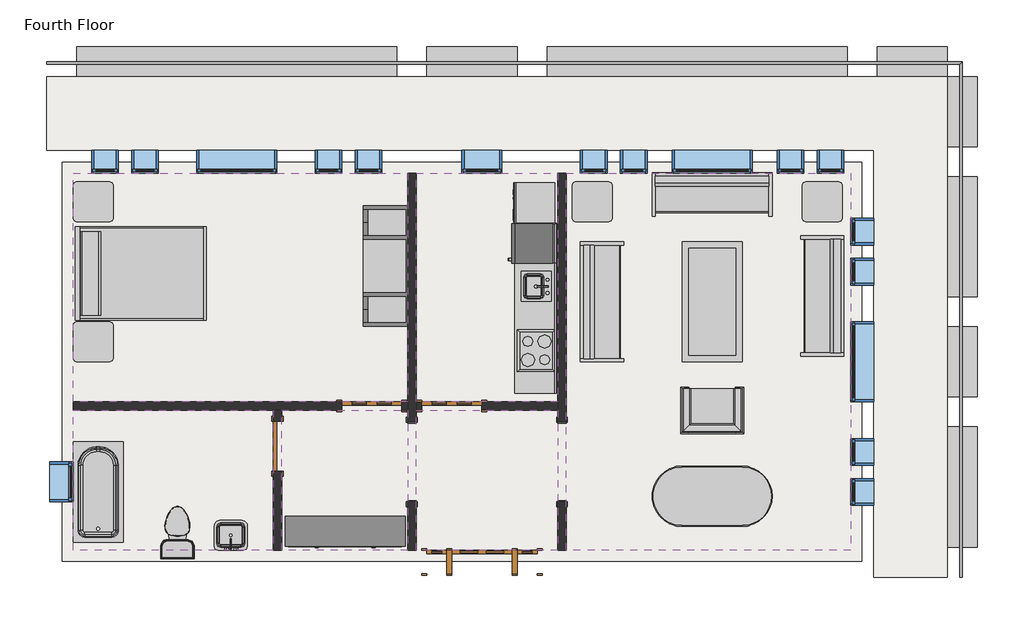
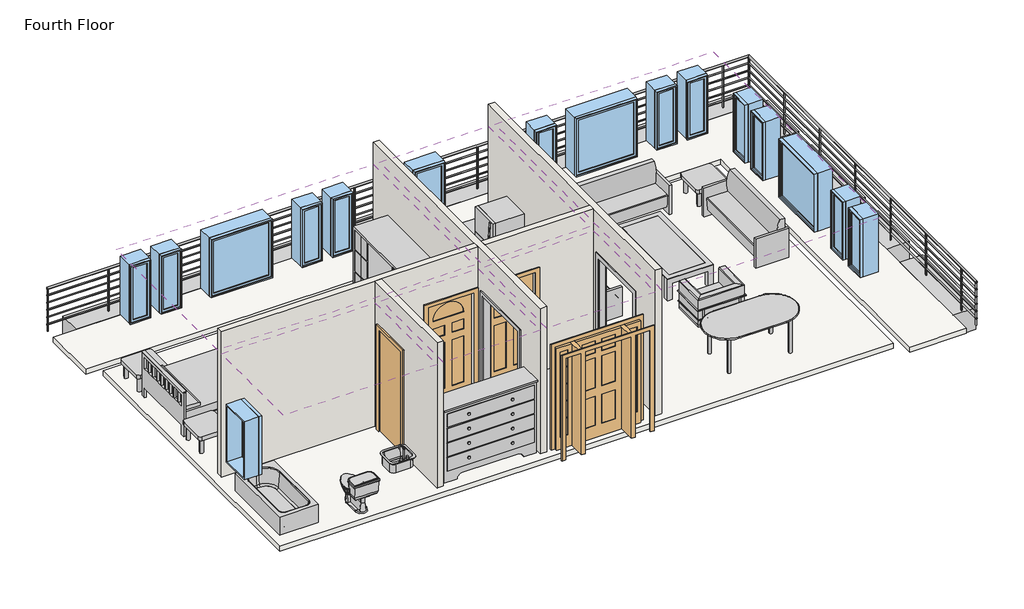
# One storey: 17 windows, 14 furniture elements, 6 coverings, 6 proxies, 5 walls, 4 doors, 4 flow terminals, 2 beams, 3 other elements.
"""IFC4 building model written with IfcOpenShell, lengths in millimetres."""

from ifc_helpers import new_model, si_unit, frame, origin, place, context, project, spatial, polyline, outline, extrude, faceted_brep, transform, mapped, element, save
from components import proxy_dfcd9396, proxy_3c49123c, proxy_7a545507, proxy_f44482cc, proxy_ec3341c2, door_829da954, door_2e3b4da2, door_4d6c7550, door_dba5aa2e, flow_terminal_41332a36, flow_terminal_62a433f7, toilet_domestic_3d_toilet_domestic_3d_f7549cf7, toilet_domestic_3d_toilet_domestic_3d_183bbd19, tub_rectangular_3d_tub_rectangular_3d_15036965, furniture_096e7f55, chair_corbu_chair_corbu_2764bdef, furniture_6db689a5, furniture_7c473f12, furniture_cf0b6580, furniture_a4ffab56, furniture_cd93a443, furniture_2c34a4f9, furniture_3a588284, handrail_pipe_d2b3d8b8, window_da97879f, window_d61ef850, window_60baf983, window_6eb97611

model = new_model("IFC4")

# Units and contexts
model_context = context("Model", 3, world=origin())
ifc_project = project(units=[si_unit("LENGTHUNIT", "METRE", prefix="MILLI")], contexts=[model_context])

# Site, building, storey
site = spatial("IfcSite", under=ifc_project)
building = spatial("IfcBuilding", under=site)
storey = spatial("IfcBuildingStorey", under=building, Name="Fourth Floor", Elevation=9144.0)

# Beams
placement = place(None, origin())
element("IfcBeam", 1, ObjectType="Concrete-Rectangular Beam : 18 x 18", at=placement, inside=storey, context=model_context, shape_type="SweptSolid", body=[
    extrude(outline(polyline([(2093.9410437, 12198.8316867), (2093.9410437, 11741.6316867), (1027.1410437, 11741.6316867), (1027.1410437, 12198.8316867), (2093.9410437, 12198.8316867)])), frame((0.0, 0.0, 8686.8), z_axis=(0.0, 0.0, 1.0), x_axis=(1.0, 0.0, 0.0)), (0.0, 0.0, 1.0), 457.2),
    extrude(outline(polyline([(-11164.8589563, 11741.6316867), (-11164.8589563, 12198.8316867), (-6288.0589563, 12198.8316867), (-6288.0589563, 11741.6316867), (-11164.8589563, 11741.6316867)])), frame((0.0, 0.0, 8686.8), z_axis=(0.0, 0.0, 1.0), x_axis=(1.0, 0.0, 0.0)), (0.0, 0.0, 1.0), 457.2),
    extrude(outline(polyline([(569.9410437, 12198.8316867), (569.9410437, 11741.6316867), (-4002.0589563, 11741.6316867), (-4002.0589563, 12198.8316867), (569.9410437, 12198.8316867)])), frame((0.0, 0.0, 8686.8), z_axis=(0.0, 0.0, 1.0), x_axis=(1.0, 0.0, 0.0)), (0.0, 0.0, 1.0), 457.2),
    extrude(outline(polyline([(-4459.2589563, 12198.8316867), (-4459.2589563, 11741.6316867), (-5830.8589563, 11741.6316867), (-5830.8589563, 12198.8316867), (-4459.2589563, 12198.8316867)])), frame((0.0, 0.0, 8686.8), z_axis=(0.0, 0.0, 1.0), x_axis=(1.0, 0.0, 0.0)), (0.0, 0.0, 1.0), 457.2),
])
element("IfcBeam", 2, ObjectType="Concrete-Rectangular Beam : 18 x 18", at=placement, inside=storey, context=model_context, shape_type="SweptSolid", body=[
    extrude(outline(polyline([(2093.9410437, 11741.6316867), (2551.1410437, 11741.6316867), (2551.1410437, 10674.8316867), (2093.9410437, 10674.8316867), (2093.9410437, 11741.6316867)])), frame((0.0, 0.0, 8686.8), z_axis=(0.0, 0.0, 1.0), x_axis=(1.0, 0.0, 0.0)), (0.0, 0.0, 1.0), 457.2),
    extrude(outline(polyline([(2551.1410437, 4578.8316867), (2093.9410437, 4578.8316867), (2093.9410437, 6407.6316867), (2551.1410437, 6407.6316867), (2551.1410437, 4578.8316867)])), frame((0.0, 0.0, 8686.8), z_axis=(0.0, 0.0, 1.0), x_axis=(1.0, 0.0, 0.0)), (0.0, 0.0, 1.0), 457.2),
    extrude(outline(polyline([(2093.9410437, 10217.6316867), (2551.1410437, 10217.6316867), (2551.1410437, 8388.8316867), (2093.9410437, 8388.8316867), (2093.9410437, 10217.6316867)])), frame((0.0, 0.0, 8686.8), z_axis=(0.0, 0.0, 1.0), x_axis=(1.0, 0.0, 0.0)), (0.0, 0.0, 1.0), 457.2),
    extrude(outline(polyline([(2093.9410437, 7931.6316867), (2551.1410437, 7931.6316867), (2551.1410437, 6864.8316867), (2093.9410437, 6864.8316867), (2093.9410437, 7931.6316867)])), frame((0.0, 0.0, 8686.8), z_axis=(0.0, 0.0, 1.0), x_axis=(1.0, 0.0, 0.0)), (0.0, 0.0, 1.0), 457.2),
])

# Proxies
proxy_shape = proxy_dfcd9396(model_context)
element("IfcBuildingElementProxy", 3, Name="Cook Top-4 Unit2 : 22\" x 20\"", ObjectType="Cook Top-4 Unit2 : 22\" x 20\"", at=placement, inside=storey, context=model_context, shape_type="MappedRepresentation", body=[
    mapped(proxy_shape, transform((-4167.1589563, 7568.5224391, 9144.0), x_axis=(0.0, 1.0000000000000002, 0.0), y_axis=(-1.0000000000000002, 0.0, 0.0), z_axis=(0.0, 0.0, 1.0))),
])
proxy_2_shape = proxy_3c49123c(model_context)
element("IfcBuildingElementProxy", 4, Name="Dishwasher : 24\" x 24\" x 34\"", ObjectType="Dishwasher : 24\" x 24\" x 34\"", at=placement, inside=storey, context=model_context, shape_type="MappedRepresentation", body=[
    mapped(proxy_2_shape, transform((-4459.0085211, 9434.1049706, 9144.0), x_axis=(0.0, 1.0000000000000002, 0.0), y_axis=(-1.0000000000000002, 0.0, 0.0), z_axis=(0.0, 0.0, 1.0))),
])
proxy_3_shape = proxy_7a545507(model_context)
element("IfcBuildingElementProxy", 5, Name="Kitchenette - Medium : 8'6\"", ObjectType="Kitchenette - Medium : 8'6\"", at=placement, inside=storey, context=model_context, shape_type="MappedRepresentation", body=[
    mapped(proxy_3_shape, transform((-3862.3589563, 8197.4847342, 9144.0), x_axis=(0.0, 1.0000000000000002, 0.0), y_axis=(-1.0000000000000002, 0.0, 0.0), z_axis=(0.0, 0.0, 1.0))),
])
proxy_4_shape = proxy_f44482cc(model_context)
element("IfcBuildingElementProxy", 6, Name="Opening-Cased : 48\" x 84\"", ObjectType="Opening-Cased : 48\" x 84\"", at=placement, inside=storey, context=model_context, shape_type="MappedRepresentation", body=[
    mapped(proxy_4_shape, transform((-3773.4589563, 5882.4203434, 9144.0), x_axis=(0.0, 1.0, 0.0), y_axis=(-1.0, 0.0, 0.0), z_axis=(0.0, 0.0, 1.0))),
])
element("IfcBuildingElementProxy", 7, Name="Opening-Cased : 48\" x 84\"", ObjectType="Opening-Cased : 48\" x 84\"", at=placement, inside=storey, context=model_context, shape_type="MappedRepresentation", body=[
    mapped(proxy_4_shape, transform((-6059.4589563, 5866.04303, 9144.0), x_axis=(0.0, -1.0, 0.0), y_axis=(1.0, 0.0, 0.0), z_axis=(0.0, 0.0, 1.0))),
])
proxy_5_shape = proxy_ec3341c2(model_context)
element("IfcBuildingElementProxy", 8, Name="Refrigerator : 24\" x 25\" LH", ObjectType="Refrigerator : 24\" x 25\" LH", at=placement, inside=storey, context=model_context, shape_type="MappedRepresentation", body=[
    mapped(proxy_5_shape, transform((-4212.8079278, 9200.4724391, 9144.0), x_axis=(0.0, 1.0000000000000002, 0.0), y_axis=(-1.0000000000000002, 0.0, 0.0), z_axis=(0.0, 0.0, 1.0))),
])

# Coverings
element("IfcCovering", 9, ObjectType="GWB on Mtl. Stud", at=placement, inside=storey, context=model_context, shape_type="SweptSolid", body=[
    extrude(outline(polyline([(-11217.2464563, 10270.0191867), (-6122.9589563, 10270.0191867), (-6122.9589563, 6787.0441867), (-11217.2464563, 6787.0441867), (-11217.2464563, 10270.0191867)])), frame((0.0, 0.0, 11734.8), z_axis=(0.0, 0.0, 1.0), x_axis=(1.0, 0.0, 0.0)), (0.0, 0.0, 1.0), 107.95),
])
element("IfcCovering", 10, ObjectType="GWB on Mtl. Stud", at=placement, inside=storey, context=model_context, shape_type="SweptSolid", body=[
    extrude(outline(polyline([(-5995.9589563, 6787.0441867), (-5995.9589563, 10270.0191867), (-3836.9589563, 10270.0191867), (-3836.9589563, 6787.0441867), (-5995.9589563, 6787.0441867)])), frame((0.0, 0.0, 11734.8), z_axis=(0.0, 0.0, 1.0), x_axis=(1.0, 0.0, 0.0)), (0.0, 0.0, 1.0), 107.95),
])
element("IfcCovering", 11, ObjectType="GWB on Mtl. Stud", at=placement, inside=storey, context=model_context, shape_type="SweptSolid", body=[
    extrude(outline(polyline([(-3709.9589563, 4526.4441867), (-3709.9589563, 10270.0191867), (622.3285437, 10270.0191867), (622.3285437, 4526.4441867), (-3709.9589563, 4526.4441867)])), frame((0.0, 0.0, 11734.8), z_axis=(0.0, 0.0, 1.0), x_axis=(1.0, 0.0, 0.0)), (0.0, 0.0, 1.0), 107.95),
])
element("IfcCovering", 12, ObjectType="GWB on Mtl. Stud", at=placement, inside=storey, context=model_context, shape_type="SweptSolid", body=[
    extrude(outline(polyline([(-3836.9589563, 4526.4441867), (-5995.9589563, 4526.4441867), (-5995.9589563, 6660.0441867), (-3836.9589563, 6660.0441867), (-3836.9589563, 4526.4441867)])), frame((0.0, 0.0, 11734.8), z_axis=(0.0, 0.0, 1.0), x_axis=(1.0, 0.0, 0.0)), (0.0, 0.0, 1.0), 107.95),
])
element("IfcCovering", 13, ObjectType="GWB on Mtl. Stud", at=placement, inside=storey, context=model_context, shape_type="SweptSolid", body=[
    extrude(outline(polyline([(-8169.2464563, 6660.0441867), (-8169.2464563, 4526.4441867), (-11217.2464563, 4526.4441867), (-11217.2464563, 6660.0441867), (-8169.2464563, 6660.0441867)])), frame((0.0, 0.0, 11734.8), z_axis=(0.0, 0.0, 1.0), x_axis=(1.0, 0.0, 0.0)), (0.0, 0.0, 1.0), 107.95),
])
element("IfcCovering", 14, ObjectType="GWB on Mtl. Stud", at=placement, inside=storey, context=model_context, shape_type="SweptSolid", body=[
    extrude(outline(polyline([(-6122.9589563, 4526.4441867), (-8042.2464563, 4526.4441867), (-8042.2464563, 6660.0441867), (-6122.9589563, 6660.0441867), (-6122.9589563, 4526.4441867)])), frame((0.0, 0.0, 11734.8), z_axis=(0.0, 0.0, 1.0), x_axis=(1.0, 0.0, 0.0)), (0.0, 0.0, 1.0), 107.95),
])

# Doors
door_shape = door_829da954(model_context)
element("IfcDoor", 15, ObjectType="Single-Decorative 2 : 36\" x 84\"", at=placement, inside=storey, context=model_context, shape_type="MappedRepresentation", body=[
    mapped(door_shape, transform((-5449.8589563, 6723.5441867, 9144.0), x_axis=(-1.0, 0.0, 0.0), y_axis=(0.0, -1.0, 0.0), z_axis=(0.0, 0.0, 1.0))),
])
door_2_shape = door_2e3b4da2(model_context)
element("IfcDoor", 16, ObjectType="Single-Decorative 2 : 36\" x 84\"", at=placement, inside=storey, context=model_context, shape_type="MappedRepresentation", body=[
    mapped(door_2_shape, transform((-6669.0589563, 6723.5441867, 9144.0), x_axis=(1.0, 0.0, 0.0), y_axis=(0.0, 1.0, 0.0), z_axis=(0.0, 0.0, 1.0))),
])
door_3_shape = door_4d6c7550(model_context)
element("IfcDoor", 17, ObjectType="Single-Flush : 30\" x 84\"", at=placement, inside=storey, context=model_context, shape_type="MappedRepresentation", body=[
    mapped(door_3_shape, transform((-8105.7464563, 6113.9441867, 9144.0), x_axis=(0.0, 1.0, 0.0), y_axis=(-1.0, 0.0, 0.0), z_axis=(0.0, 0.0, 1.0))),
])
door_4_shape = door_dba5aa2e(model_context)
element("IfcDoor", 18, ObjectType="Single-Raised Panel with Sidelights : 36\" x 84\"", at=placement, inside=storey, context=model_context, shape_type="MappedRepresentation", body=[
    mapped(door_4_shape, transform((-4992.6589563, 4350.2316867, 9144.0), x_axis=(-1.0, 0.0, 0.0), y_axis=(0.0, -1.0, 0.0), z_axis=(0.0, 0.0, 1.0))),
])

# Flow terminals
flow_terminal_shape = flow_terminal_41332a36(model_context)
element("IfcFlowTerminal", 19, ObjectType="Sink Kitchen-Island : 18\" x 18\"", at=placement, inside=storey, context=model_context, shape_type="MappedRepresentation", body=[
    mapped(flow_terminal_shape, transform((-4169.5043574, 8530.7331986, 9129.6), x_axis=(0.0, 1.0000000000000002, 0.0), y_axis=(-1.0000000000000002, 0.0, 0.0), z_axis=(0.0, 0.0, 1.0))),
])
flow_terminal_2_shape = flow_terminal_62a433f7(model_context)
element("IfcFlowTerminal", 20, ObjectType="Sink Vanity-Square : 20\" x 18\"", at=placement, inside=storey, context=model_context, shape_type="MappedRepresentation", body=[
    mapped(flow_terminal_2_shape, transform((-8801.2572158, 4706.5895878, 9144.0), x_axis=(-1.0, 0.0, 0.0), y_axis=(0.0, -1.0, 0.0), z_axis=(0.0, 0.0, 1.0))),
])
toilet_domestic_3d_toilet_domestic_3d_shape = toilet_domestic_3d_toilet_domestic_3d_f7549cf7(model_context)
toilet_domestic_3d_toilet_domestic_3d_2_shape = toilet_domestic_3d_toilet_domestic_3d_183bbd19(model_context)
element("IfcFlowTerminal", 21, ObjectType="Toilet-Domestic-3D : Toilet-Domestic-3D", at=placement, inside=storey, context=model_context, shape_type="MappedRepresentation", body=[
    mapped(toilet_domestic_3d_toilet_domestic_3d_shape, transform((-9629.7464563, 4894.7441867, 9144.0), x_axis=(-1.0, 0.0, 0.0), y_axis=(0.0, -1.0, 0.0), z_axis=(0.0, 0.0, 1.0))),
    mapped(toilet_domestic_3d_toilet_domestic_3d_2_shape, transform((-9629.7464563, 4894.7441867, 9144.0), x_axis=(-1.0, 0.0, 0.0), y_axis=(0.0, -1.0, 0.0), z_axis=(0.0, 0.0, 1.0))),
])
tub_rectangular_3d_tub_rectangular_3d_shape = tub_rectangular_3d_tub_rectangular_3d_15036965(model_context)
element("IfcFlowTerminal", 22, ObjectType="Tub-Rectangular-3D : Tub-Rectangular-3D", at=placement, inside=storey, context=model_context, shape_type="MappedRepresentation", body=[
    mapped(tub_rectangular_3d_tub_rectangular_3d_shape, transform((-11393.4589563, 5765.6346554, 9144.0), x_axis=(0.0, 1.0, 0.0), y_axis=(-1.0, 0.0, 0.0), z_axis=(0.0, 0.0, 1.0))),
])

# Furniture
furniture_shape = furniture_096e7f55(model_context)
element("IfcFurniture", 23, ObjectType="Bed-Shaker : Double 56\" x 78\"", at=placement, inside=storey, context=model_context, shape_type="MappedRepresentation", body=[
    mapped(furniture_shape, transform((-11172.0857802, 8763.4816867, 9144.0), x_axis=(0.0, 1.0, 0.0), y_axis=(-1.0, 0.0, 0.0), z_axis=(0.0, 0.0, 1.0))),
])
chair_corbu_chair_corbu_shape = chair_corbu_chair_corbu_2764bdef(model_context)
element("IfcFurniture", 24, ObjectType="Chair-Corbu : Chair-Corbu", at=placement, inside=storey, context=model_context, shape_type="MappedRepresentation", body=[
    mapped(chair_corbu_chair_corbu_shape, transform((-914.0851858, 7126.8212359, 9144.0), x_axis=(-1.0, 0.0, 0.0), y_axis=(0.0, -1.0, 0.0), z_axis=(0.0, 0.0, 1.0))),
])
furniture_2_shape = furniture_6db689a5(model_context)
element("IfcFurniture", 25, ObjectType="Counter Top w Sink Hole : 24\" Depth", at=placement, inside=storey, context=model_context, shape_type="MappedRepresentation", body=[
    mapped(furniture_2_shape, transform((-3862.3589563, 8121.2847342, 9129.6), x_axis=(0.0, 1.0000000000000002, 0.0), y_axis=(-1.0000000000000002, 0.0, 0.0), z_axis=(0.0, 0.0, 1.0))),
])
furniture_3_shape = furniture_7c473f12(model_context)
element("IfcFurniture", 26, ObjectType="Dresser : 72\" x 60\" x 18\"", at=placement, inside=storey, context=model_context, shape_type="MappedRepresentation", body=[
    mapped(furniture_3_shape, transform((-6806.2656965, 5181.7071408, 9144.0), x_axis=(1.0, 0.0, 0.0), y_axis=(0.0, 1.0, 0.0), z_axis=(0.0, 0.0, 1.0))),
])
furniture_4_shape = furniture_cf0b6580(model_context)
element("IfcFurniture", 27, ObjectType="Entertainment Center : 72\" x 72\" x 24\"", at=placement, inside=storey, context=model_context, shape_type="MappedRepresentation", body=[
    mapped(furniture_4_shape, transform((-6021.3589563, 8857.1441867, 9144.0), x_axis=(0.0, -1.0, 0.0), y_axis=(1.0, 0.0, 0.0), z_axis=(0.0, 0.0, 1.0))),
])
furniture_5_shape = furniture_a4ffab56(model_context)
element("IfcFurniture", 28, ObjectType="Sofa : 72\"", at=placement, inside=storey, context=model_context, shape_type="MappedRepresentation", body=[
    mapped(furniture_5_shape, transform((-3017.704858, 8242.2611949, 9144.0), x_axis=(0.0, 1.0, 0.0), y_axis=(-1.0, 0.0, 0.0), z_axis=(0.0, 0.0, 1.0))),
])
element("IfcFurniture", 29, ObjectType="Sofa : 72\"", at=placement, inside=storey, context=model_context, shape_type="MappedRepresentation", body=[
    mapped(furniture_5_shape, transform((-1557.8294481, 9801.5748071, 9144.0), x_axis=(1.0, 0.0, 0.0), y_axis=(0.0, 1.0, 0.0), z_axis=(0.0, 0.0, 1.0))),
])
element("IfcFurniture", 30, ObjectType="Sofa : 72\"", at=placement, inside=storey, context=model_context, shape_type="MappedRepresentation", body=[
    mapped(furniture_5_shape, transform((42.7869453, 8470.3146785, 9144.0), x_axis=(0.0, -1.0, 0.0), y_axis=(1.0, 0.0, 0.0), z_axis=(0.0, 0.0, 1.0))),
])
furniture_6_shape = furniture_cd93a443(model_context)
element("IfcFurniture", 31, ObjectType="Table-Coffee : 36\" x 72\" x 18\"", at=placement, inside=storey, context=model_context, shape_type="MappedRepresentation", body=[
    mapped(furniture_6_shape, transform((-1392.2478785, 8294.36592, 9144.0), x_axis=(0.0, 1.0, 0.0), y_axis=(-1.0, 0.0, 0.0), z_axis=(0.0, 0.0, 1.0))),
])
furniture_7_shape = furniture_2c34a4f9(model_context)
element("IfcFurniture", 32, ObjectType="Table-Dining Oval : 36\" x 72\"", at=placement, inside=storey, context=model_context, shape_type="MappedRepresentation", body=[
    mapped(furniture_7_shape, transform((-1085.6392842, 5710.0425473, 9144.0), x_axis=(1.0, 0.0, 0.0), y_axis=(0.0, 1.0, 0.0), z_axis=(0.0, 0.0, 1.0))),
])
furniture_8_shape = furniture_3a588284(model_context)
element("IfcFurniture", 33, ObjectType="Table-End : 24\" x 24\"", at=placement, inside=storey, context=model_context, shape_type="MappedRepresentation", body=[
    mapped(furniture_8_shape, transform((-119.5925866, 9684.2316867, 9144.0), x_axis=(1.0, 0.0, 0.0), y_axis=(0.0, 1.0, 0.0), z_axis=(0.0, 0.0, 1.0))),
])
element("IfcFurniture", 34, ObjectType="Table-End : 24\" x 24\"", at=placement, inside=storey, context=model_context, shape_type="MappedRepresentation", body=[
    mapped(furniture_8_shape, transform((-11220.9800866, 7550.6316867, 9144.0), x_axis=(1.0, 0.0, 0.0), y_axis=(0.0, 1.0, 0.0), z_axis=(0.0, 0.0, 1.0))),
])
element("IfcFurniture", 35, ObjectType="Table-End : 24\" x 24\"", at=placement, inside=storey, context=model_context, shape_type="MappedRepresentation", body=[
    mapped(furniture_8_shape, transform((-11220.9800866, 9684.2316867, 9144.0), x_axis=(1.0, 0.0, 0.0), y_axis=(0.0, 1.0, 0.0), z_axis=(0.0, 0.0, 1.0))),
])
element("IfcFurniture", 36, ObjectType="Table-End : 24\" x 24\"", at=placement, inside=storey, context=model_context, shape_type="MappedRepresentation", body=[
    mapped(furniture_8_shape, transform((-3624.7925866, 9684.2316867, 9144.0), x_axis=(1.0, 0.0, 0.0), y_axis=(0.0, 1.0, 0.0), z_axis=(0.0, 0.0, 1.0))),
])

# Railing
handrail_pipe_shape = handrail_pipe_d2b3d8b8(model_context)
element("IfcRailing", 37, ObjectType="Handrail - Pipe", at=placement, inside=storey, context=model_context, shape_type="MappedRepresentation", body=[
    mapped(handrail_pipe_shape, transform((0.0, 0.0, 0.0), x_axis=(1.0, 0.0, 0.0), y_axis=(0.0, 1.0, 0.0), z_axis=(0.0, 0.0, 1.0))),
])

# Slabs
element("IfcSlab", 38, ObjectType="LW Concrete on Metal Deck", at=placement, inside=storey, context=model_context, shape_type="SweptSolid", body=[
    extrude(outline(polyline([(787.4285437, 10435.1191867), (787.4285437, 4361.3441867), (-11382.3464563, 4361.3441867), (-11382.3464563, 10435.1191867), (787.4285437, 10435.1191867)])), frame((0.0, 0.0, 9039.225), z_axis=(0.0, 0.0, 1.0), x_axis=(1.0, 0.0, 0.0)), (0.0, 0.0, 1.0), 104.775),
])
element("IfcSlab", 39, ObjectType="LW Concrete on Metal Deck", at=placement, inside=storey, context=model_context, shape_type="SweptSolid", body=[
    extrude(outline(polyline([(-11622.0589563, 10622.4441867), (-11622.0589563, 11741.6316867), (2093.9410437, 11741.6316867), (2093.9410437, 4121.6316867), (974.7535437, 4121.6316867), (974.7535437, 10622.4441867), (-11622.0589563, 10622.4441867)])), frame((0.0, 0.0, 9039.225), z_axis=(0.0, 0.0, 1.0), x_axis=(1.0, 0.0, 0.0)), (0.0, 0.0, 1.0), 104.775),
])

# Walls
element("IfcWall", 40, ObjectType="Interior - 5\" Partition (2-hr)", at=placement, inside=storey, context=model_context, shape_type="Brep", body=[
    faceted_brep([(-3709.9589563, 10270.0191867, 9144.0), (-3709.9589563, 6483.8316867, 9144.0), (-3836.9589563, 6483.8316867, 9144.0), (-3836.9589563, 6660.0441867, 9144.0), (-3836.9589563, 6787.0441867, 9144.0), (-3836.9589563, 10270.0191867, 9144.0), (-3709.9589563, 5264.6316867, 9144.0), (-3709.9589563, 4526.4441867, 9144.0), (-3836.9589563, 4526.4441867, 9144.0), (-3836.9589563, 5264.6316867, 9144.0), (-3836.9589563, 10270.0191867, 12192.0), (-3836.9589563, 6787.0441867, 12192.0), (-3836.9589563, 6660.0441867, 12192.0), (-3836.9589563, 4526.4441867, 12192.0), (-3709.9589563, 4526.4441867, 12192.0), (-3709.9589563, 10270.0191867, 12192.0), (-3836.9589563, 6483.8316867, 11277.6), (-3836.9589563, 5264.6316867, 11277.6), (-3709.9589563, 6483.8316867, 11277.6), (-3709.9589563, 5264.6316867, 11277.6)], [[[0, 1, 2, 3, 4, 5]], [[6, 7, 8, 9]], [[10, 11, 12, 13, 14, 15]], [[5, 4, 3, 2, 16, 17, 9, 8, 13, 12, 11, 10]], [[18, 1, 0, 15, 14, 7, 6, 19]], [[5, 10, 15, 0]], [[13, 8, 7, 14]], [[9, 17, 19, 6]], [[16, 2, 1, 18]], [[17, 16, 18, 19]]]),
])
element("IfcWall", 41, ObjectType="Interior - 5\" Partition (2-hr)", at=placement, inside=storey, context=model_context, shape_type="Brep", body=[
    faceted_brep([(-6122.9589563, 4526.4441867, 9144.0), (-6122.9589563, 5264.6316867, 9144.0), (-5995.9589563, 5264.6316867, 9144.0), (-5995.9589563, 4526.4441867, 9144.0), (-6122.9589563, 6483.8316867, 9144.0), (-6122.9589563, 6660.0441867, 9144.0), (-6122.9589563, 6787.0441867, 9144.0), (-6122.9589563, 10270.0191867, 9144.0), (-5995.9589563, 10270.0191867, 9144.0), (-5995.9589563, 6787.0441867, 9144.0), (-5995.9589563, 6660.0441867, 9144.0), (-5995.9589563, 6483.8316867, 9144.0), (-6122.9589563, 10270.0191867, 12192.0), (-6122.9589563, 6787.0441867, 12192.0), (-6122.9589563, 6660.0441867, 12192.0), (-6122.9589563, 4526.4441867, 12192.0), (-5995.9589563, 4526.4441867, 12192.0), (-5995.9589563, 6660.0441867, 12192.0), (-5995.9589563, 6787.0441867, 12192.0), (-5995.9589563, 10270.0191867, 12192.0), (-6122.9589563, 5264.6316867, 11277.6), (-6122.9589563, 6483.8316867, 11277.6), (-5995.9589563, 5264.6316867, 11277.6), (-5995.9589563, 6483.8316867, 11277.6)], [[[0, 1, 2, 3]], [[4, 5, 6, 7, 8, 9, 10, 11]], [[12, 13, 14, 15, 16, 17, 18, 19]], [[20, 1, 0, 15, 14, 13, 12, 7, 6, 5, 4, 21]], [[3, 2, 22, 23, 11, 10, 9, 8, 19, 18, 17, 16]], [[7, 12, 19, 8]], [[15, 0, 3, 16]], [[11, 23, 21, 4]], [[22, 2, 1, 20]], [[23, 22, 20, 21]]]),
])
element("IfcWall", 42, ObjectType="Interior - 5\" Partition (2-hr)", at=placement, inside=storey, context=model_context, shape_type="Brep", body=[
    faceted_brep([(-6122.9589563, 6660.0441867, 9144.0), (-6211.8589563, 6660.0441867, 9144.0), (-6211.8589563, 6787.0441867, 9144.0), (-6122.9589563, 6787.0441867, 9144.0), (-7126.2589563, 6660.0441867, 9144.0), (-8042.2464563, 6660.0441867, 9144.0), (-8169.2464563, 6660.0441867, 9144.0), (-11217.2464563, 6660.0441867, 9144.0), (-11217.2464563, 6787.0441867, 9144.0), (-7126.2589563, 6787.0441867, 9144.0), (-11217.2464563, 6660.0441867, 12192.0), (-8169.2464563, 6660.0441867, 12192.0), (-8042.2464563, 6660.0441867, 12192.0), (-6122.9589563, 6660.0441867, 12192.0), (-6122.9589563, 6787.0441867, 12192.0), (-11217.2464563, 6787.0441867, 12192.0), (-6211.8589563, 6660.0441867, 11277.6), (-7126.2589563, 6660.0441867, 11277.6), (-6211.8589563, 6787.0441867, 11277.6), (-7126.2589563, 6787.0441867, 11277.6)], [[[0, 1, 2, 3]], [[4, 5, 6, 7, 8, 9]], [[10, 11, 12, 13, 14, 15]], [[16, 1, 0, 13, 12, 11, 10, 7, 6, 5, 4, 17]], [[3, 2, 18, 19, 9, 8, 15, 14]], [[13, 0, 3, 14]], [[7, 10, 15, 8]], [[18, 2, 1, 16]], [[19, 18, 16, 17]], [[9, 19, 17, 4]]]),
])
element("IfcWall", 43, ObjectType="Interior - 5\" Partition (2-hr)", at=placement, inside=storey, context=model_context, shape_type="SweptSolid", body=[
    extrude(outline(polyline([(6660.0441867, 9144.0), (6494.9441867, 9144.0), (6494.9441867, 11277.6), (5732.9441867, 11277.6), (5732.9441867, 9144.0), (4526.4441867, 9144.0), (4526.4441867, 12192.0), (6660.0441867, 12192.0), (6660.0441867, 9144.0)])), frame((-8169.2464563, 0.0, 0.0), z_axis=(1.0, 0.0, 0.0), x_axis=(0.0, 1.0, 0.0)), (0.0, 0.0, 1.0), 127.0),
])
element("IfcWall", 44, ObjectType="Interior - 5\" Partition (2-hr)", at=placement, inside=storey, context=model_context, shape_type="SweptSolid", body=[
    extrude(outline(polyline([(9144.0, -5995.9589563), (9144.0, -5907.0589563), (11277.6, -5907.0589563), (11277.6, -4992.6589563), (9144.0, -4992.6589563), (9144.0, -3836.9589563), (12192.0, -3836.9589563), (12192.0, -5995.9589563), (9144.0, -5995.9589563)])), frame((0.0, 6660.0441867, 0.0), z_axis=(0.0, 1.0, 0.0), x_axis=(0.0, 0.0, 1.0)), (0.0, 0.0, 1.0), 127.0),
])

# Windows
window_shape = window_da97879f(model_context)
element("IfcWindow", 45, ObjectType="Fixed : 16\" x 48\"", at=placement, inside=storey, context=model_context, shape_type="MappedRepresentation", body=[
    mapped(window_shape, transform((-10771.1589563, 10446.2316867, 9144.0), x_axis=(-1.0, 0.0, 0.0), y_axis=(0.0, -1.0, 0.0), z_axis=(0.0, 0.0, 1.0))),
])
element("IfcWindow", 46, ObjectType="Fixed : 16\" x 48\"", at=placement, inside=storey, context=model_context, shape_type="MappedRepresentation", body=[
    mapped(window_shape, transform((-10161.5589563, 10446.2316867, 9144.0), x_axis=(-1.0, 0.0, 0.0), y_axis=(0.0, -1.0, 0.0), z_axis=(0.0, 0.0, 1.0))),
])
element("IfcWindow", 47, ObjectType="Fixed : 16\" x 48\"", at=placement, inside=storey, context=model_context, shape_type="MappedRepresentation", body=[
    mapped(window_shape, transform((-3328.9589563, 10446.2316867, 9144.0), x_axis=(-1.0, 0.0, 0.0), y_axis=(0.0, -1.0, 0.0), z_axis=(0.0, 0.0, 1.0))),
])
element("IfcWindow", 48, ObjectType="Fixed : 16\" x 48\"", at=placement, inside=storey, context=model_context, shape_type="MappedRepresentation", body=[
    mapped(window_shape, transform((-2719.3589563, 10446.2316867, 9144.0), x_axis=(-1.0, 0.0, 0.0), y_axis=(0.0, -1.0, 0.0), z_axis=(0.0, 0.0, 1.0))),
])
element("IfcWindow", 49, ObjectType="Fixed : 16\" x 48\"", at=placement, inside=storey, context=model_context, shape_type="MappedRepresentation", body=[
    mapped(window_shape, transform((798.5410437, 9417.5316867, 9144.0), x_axis=(0.0, 1.0, 0.0), y_axis=(-1.0, 0.0, 0.0), z_axis=(0.0, 0.0, 1.0))),
])
element("IfcWindow", 50, ObjectType="Fixed : 16\" x 48\"", at=placement, inside=storey, context=model_context, shape_type="MappedRepresentation", body=[
    mapped(window_shape, transform((798.5410437, 8807.9316867, 9144.0), x_axis=(0.0, 1.0, 0.0), y_axis=(-1.0, 0.0, 0.0), z_axis=(0.0, 0.0, 1.0))),
])
window_2_shape = window_d61ef850(model_context)
element("IfcWindow", 51, ObjectType="Fixed : 16\" x 48\"", at=placement, inside=storey, context=model_context, shape_type="MappedRepresentation", body=[
    mapped(window_2_shape, transform((-6681.7589563, 10446.2316867, 9144.0), x_axis=(1.0, 0.0, 0.0), y_axis=(0.0, 1.0, 0.0), z_axis=(0.0, 0.0, 1.0))),
])
element("IfcWindow", 52, ObjectType="Fixed : 16\" x 48\"", at=placement, inside=storey, context=model_context, shape_type="MappedRepresentation", body=[
    mapped(window_2_shape, transform((-7291.3589563, 10446.2316867, 9144.0), x_axis=(1.0, 0.0, 0.0), y_axis=(0.0, 1.0, 0.0), z_axis=(0.0, 0.0, 1.0))),
])
element("IfcWindow", 53, ObjectType="Fixed : 16\" x 48\"", at=placement, inside=storey, context=model_context, shape_type="MappedRepresentation", body=[
    mapped(window_2_shape, transform((354.0410437, 10446.2316867, 9144.0), x_axis=(1.0, 0.0, 0.0), y_axis=(0.0, 1.0, 0.0), z_axis=(0.0, 0.0, 1.0))),
])
element("IfcWindow", 54, ObjectType="Fixed : 16\" x 48\"", at=placement, inside=storey, context=model_context, shape_type="MappedRepresentation", body=[
    mapped(window_2_shape, transform((-255.5589563, 10446.2316867, 9144.0), x_axis=(1.0, 0.0, 0.0), y_axis=(0.0, 1.0, 0.0), z_axis=(0.0, 0.0, 1.0))),
])
element("IfcWindow", 55, ObjectType="Fixed : 16\" x 48\"", at=placement, inside=storey, context=model_context, shape_type="MappedRepresentation", body=[
    mapped(window_2_shape, transform((798.5410437, 5378.9316867, 9144.0), x_axis=(0.0, -1.0, 0.0), y_axis=(1.0, 0.0, 0.0), z_axis=(0.0, 0.0, 1.0))),
])
element("IfcWindow", 56, ObjectType="Fixed : 16\" x 48\"", at=placement, inside=storey, context=model_context, shape_type="MappedRepresentation", body=[
    mapped(window_2_shape, transform((798.5410437, 5988.5316867, 9144.0), x_axis=(0.0, -1.0, 0.0), y_axis=(1.0, 0.0, 0.0), z_axis=(0.0, 0.0, 1.0))),
])
window_3_shape = window_60baf983(model_context)
element("IfcWindow", 57, ObjectType="Fixed : 24\" x 48\"", at=placement, inside=storey, context=model_context, shape_type="MappedRepresentation", body=[
    mapped(window_3_shape, transform((-5030.7589563, 10446.2316867, 9144.0), x_axis=(-1.0, 0.0, 0.0), y_axis=(0.0, -1.0, 0.0), z_axis=(0.0, 0.0, 1.0))),
])
element("IfcWindow", 58, ObjectType="Fixed : 24\" x 48\"", at=placement, inside=storey, context=model_context, shape_type="MappedRepresentation", body=[
    mapped(window_3_shape, transform((-11393.4589563, 5531.3316867, 9144.0), x_axis=(0.0, -1.0, 0.0), y_axis=(1.0, 0.0, 0.0), z_axis=(0.0, 0.0, 1.0))),
])
window_4_shape = window_6eb97611(model_context)
element("IfcWindow", 59, ObjectType="Fixed : 48\" x 48\"", at=placement, inside=storey, context=model_context, shape_type="MappedRepresentation", body=[
    mapped(window_4_shape, transform((-8764.5589563, 10446.2316867, 9144.0), x_axis=(-1.0, 0.0, 0.0), y_axis=(0.0, -1.0, 0.0), z_axis=(0.0, 0.0, 1.0))),
])
element("IfcWindow", 60, ObjectType="Fixed : 48\" x 48\"", at=placement, inside=storey, context=model_context, shape_type="MappedRepresentation", body=[
    mapped(window_4_shape, transform((-1525.5589563, 10446.2316867, 9144.0), x_axis=(-1.0, 0.0, 0.0), y_axis=(0.0, -1.0, 0.0), z_axis=(0.0, 0.0, 1.0))),
])
element("IfcWindow", 61, ObjectType="Fixed : 48\" x 48\"", at=placement, inside=storey, context=model_context, shape_type="MappedRepresentation", body=[
    mapped(window_4_shape, transform((798.5410437, 7436.3316867, 9144.0), x_axis=(0.0, 1.0, 0.0), y_axis=(-1.0, 0.0, 0.0), z_axis=(0.0, 0.0, 1.0))),
])

save(model, "model.ifc")
